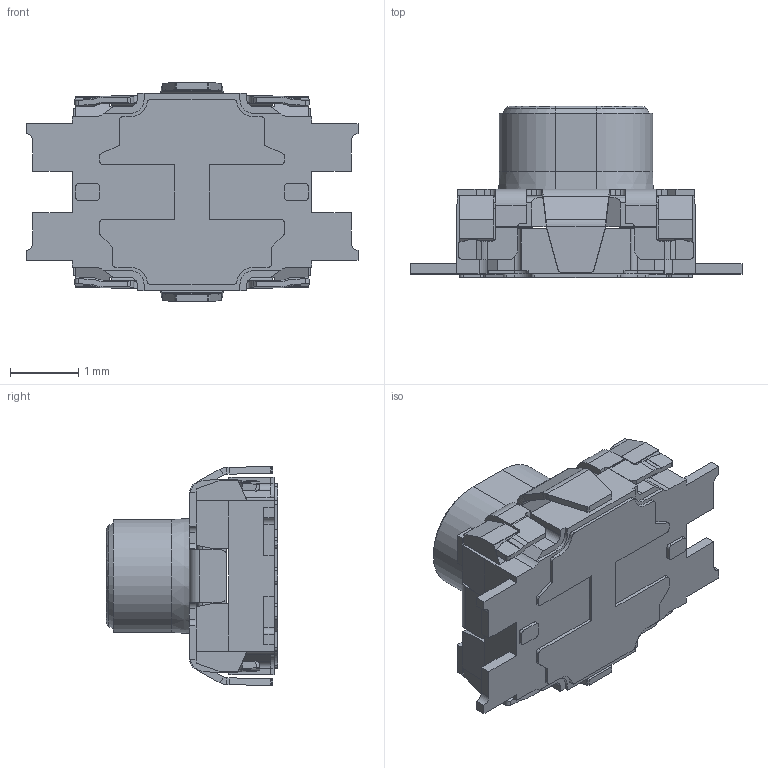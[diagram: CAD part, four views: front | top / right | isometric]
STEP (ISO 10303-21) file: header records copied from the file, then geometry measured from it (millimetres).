
FILE_DESCRIPTION (( 'STEP AP214' ), '1' );
FILE_NAME ('SKTHBA_h2.5.STEP', '2017-12-01T10:53:48', ( 'user' ), ( 'Hewlett-Packard Company' ), 'SwSTEP 2.0', 'SolidWorks 2014', '' );
FILE_SCHEMA (( 'AUTOMOTIVE_DESIGN' ));
Length unit declared in the file: millimetre
Products named in the file (1): SKTHBA_h2.5
Bounding box: 4.85 x 2.5 x 3.2 mm (x, y, z)
Volume: 14.7 mm3; surface area: 82.8 mm2
Topology: 2 solids, 2 shells, 569 faces, 1601 edges, 1026 vertices
Faces by surface type: plane 346, cylinder 177, bspline 38, cone 8
Entity records: 25249 total; most frequent: CARTESIAN_POINT 4483, ORIENTED_EDGE 3202, DIRECTION 2821, EDGE_CURVE 1601, LINE 1149, VECTOR 1149, VERTEX_POINT 1026, AXIS2_PLACEMENT_3D 836
